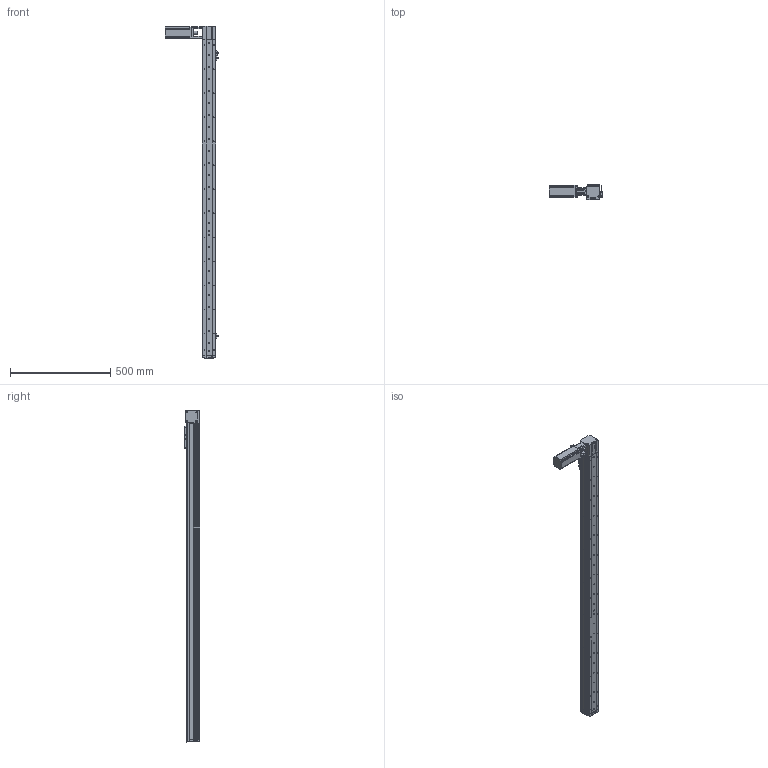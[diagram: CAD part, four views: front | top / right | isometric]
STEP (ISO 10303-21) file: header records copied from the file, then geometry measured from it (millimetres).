
FILE_DESCRIPTION (( 'STEP AP214' ), '1' );
FILE_NAME ('KSD68BS-S1400-MLT-CR.STEP', '2019-08-28T03:48:41', ( '微软用户' ), ( '微软中国' ), 'SwSTEP 2.0', 'SolidWorks 2014', '' );
FILE_SCHEMA (( 'AUTOMOTIVE_DESIGN' ));
Length unit declared in the file: millimetre
Products named in the file (13): 68遵裔啣揤啣1; 68宽单导轨全封闭丝杆传动安装板1防护罩; KSD68BS 1400行程侧板全封闭; 68宽单导轨全封闭同步带端板; 68单导轨全封闭同步带电机座右; 68单导轨全封闭同步带安装板; 感应片68宽全封闭; U倰嫖萇EEㄜSX672; 台达ECMA－C20604AS伺服电机（400W); KSD68BS 1400行程底板全封闭; KSD68BS-S1400-MLT-CR; 100遵鎮湛假蚾啣1; KSD68BS 1400行程盖板全封闭
Assembly tree (16 placements, depth 2):
  KSD68BS-S1400-MLT-CR
    KSD68BS 1400行程底板全封闭
    台达ECMA－C20604AS伺服电机（400W)
    U倰嫖萇EEㄜSX672  x3
    感应片68宽全封闭
    68单导轨全封闭同步带安装板
    68单导轨全封闭同步带电机座右
    68宽单导轨全封闭同步带端板
    KSD68BS 1400行程侧板全封闭  x2
    68宽单导轨全封闭丝杆传动安装板1防护罩
    68遵裔啣揤啣1  x2
    KSD68BS 1400行程盖板全封闭
    100遵鎮湛假蚾啣1
Bounding box: 266.4 x 77 x 1658.1 mm (x, y, z)
Volume: 3024456.1 mm3; surface area: 1188318.9 mm2
Topology: 17 solids, 17 shells, 1530 faces, 4402 edges, 2801 vertices
Faces by surface type: cylinder 742, plane 604, cone 184
Entity records: 49621 total; most frequent: CARTESIAN_POINT 8565, DIRECTION 7334, ORIENTED_EDGE 7016, EDGE_CURVE 3508, AXIS2_PLACEMENT_3D 2672, VERTEX_POINT 2299, VECTOR 1990, LINE 1990
